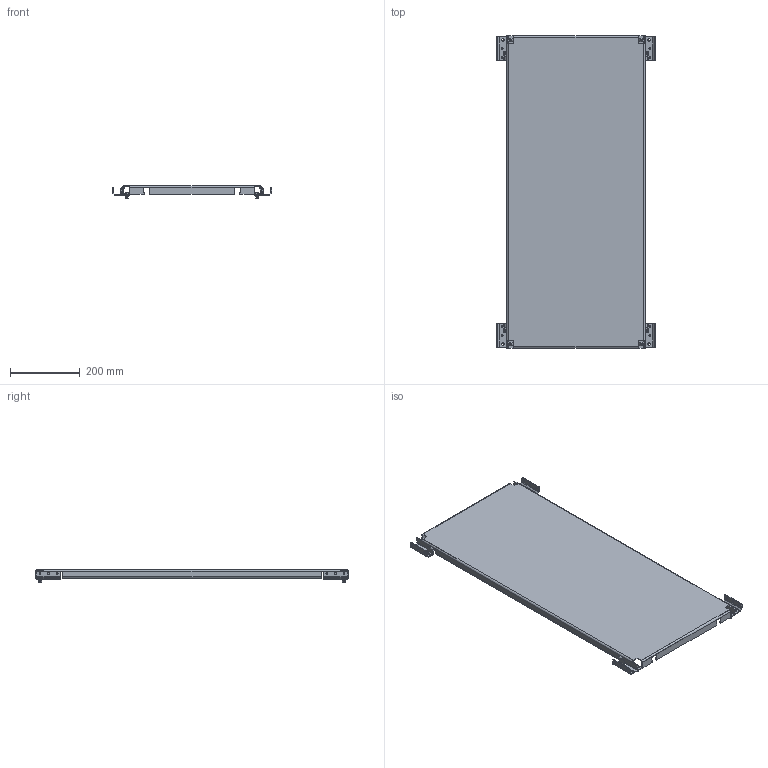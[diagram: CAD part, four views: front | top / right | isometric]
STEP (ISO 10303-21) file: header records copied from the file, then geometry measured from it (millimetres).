
FILE_DESCRIPTION (( 'STEP AP214' ), '1' );
FILE_NAME ('MSD 100.50 M ÑÁ Ïàíåëü ìîíòàæíàÿ ñåêöèîííàÿ â ñáîðå.STEP', '2024-06-14T12:07:40', ( '' ), ( '' ), 'SwSTEP 2.0', 'SolidWorks 2019', '' );
FILE_SCHEMA (( 'AUTOMOTIVE_DESIGN' ));
Length unit declared in the file: millimetre
Products named in the file (1): MSD 100.50 M ÑÁ Ïàíåëü ìîíòàæíàÿ ñåêöèîííàÿ â ñáîðå
Bounding box: 458 x 899 x 36.58 mm (x, y, z)
Volume: 1129717.9 mm3; surface area: 919050.8 mm2
Topology: 13 solids, 13 shells, 790 faces, 1924 edges, 1176 vertices
Faces by surface type: plane 358, cylinder 344, torus 48, bspline 16, cone 16, sphere 8
Entity records: 37512 total; most frequent: CARTESIAN_POINT 10079, DIRECTION 3998, ORIENTED_EDGE 3832, EDGE_CURVE 1916, AXIS2_PLACEMENT_3D 1487, VERTEX_POINT 1176, VECTOR 1024, LINE 1024
